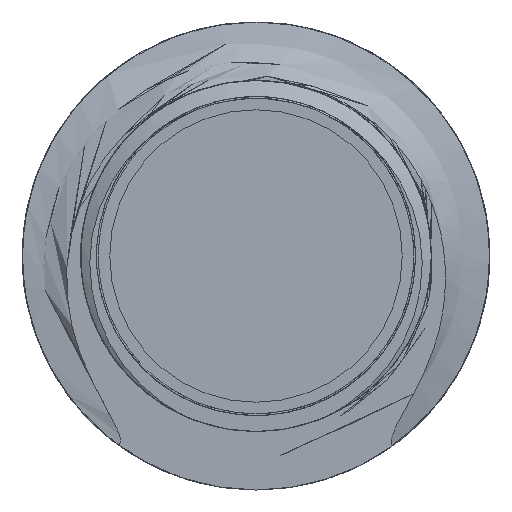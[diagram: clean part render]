
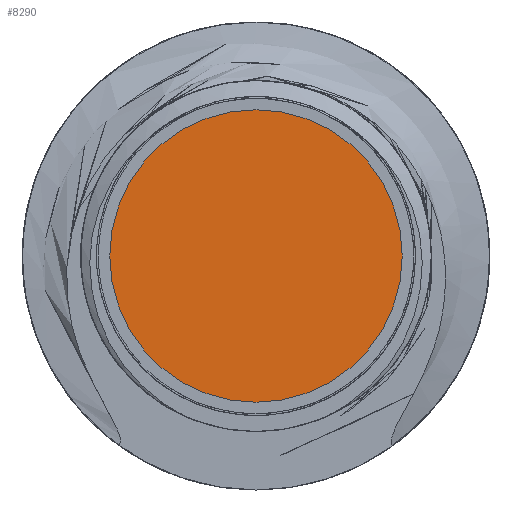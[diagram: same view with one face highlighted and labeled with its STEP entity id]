
A CAD part, left-side view. The second image highlights one B-rep face of the part: STEP entity #8290.
In plain terms, the highlighted planar face has unit normal (-1, 0, 0).
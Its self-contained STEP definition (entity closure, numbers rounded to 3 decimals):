
#2937 = CARTESIAN_POINT ( 'NONE',  ( 0., 0., 0. ) ) ;
#3794 = AXIS2_PLACEMENT_3D ( 'NONE', #2937, #4958, #13323 ) ;
#4958 = DIRECTION ( 'NONE',  ( -1., 0., 0. ) ) ;
#5366 = VERTEX_POINT ( 'NONE', #7145 ) ;
#5491 = DIRECTION ( 'NONE',  ( 1., 0., 0. ) ) ;
#7145 = CARTESIAN_POINT ( 'NONE',  ( 0., 0., 5. ) ) ;
#7699 = CARTESIAN_POINT ( 'NONE',  ( 0., 0., -5. ) ) ;
#7710 = CIRCLE ( 'NONE', #15084, 5. ) ;
#8025 = CIRCLE ( 'NONE', #3794, 5. ) ;
#8290 = ADVANCED_FACE ( 'NONE', ( #12453 ), #24320, .F. ) ;
#8679 = EDGE_LOOP ( 'NONE', ( #15684, #21455 ) ) ;
#9821 = CARTESIAN_POINT ( 'NONE',  ( 0., 0., 0. ) ) ;
#11468 = DIRECTION ( 'NONE',  ( 0., 0., -1. ) ) ;
#12453 = FACE_OUTER_BOUND ( 'NONE', #8679, .T. ) ;
#13323 = DIRECTION ( 'NONE',  ( 0., 0., 1. ) ) ;
#15084 = AXIS2_PLACEMENT_3D ( 'NONE', #9821, #16267, #24700 ) ;
#15684 = ORIENTED_EDGE ( 'NONE', *, *, #24434, .T. ) ;
#16267 = DIRECTION ( 'NONE',  ( -1., 0., 0. ) ) ;
#18110 = CARTESIAN_POINT ( 'NONE',  ( 0., 0., 0. ) ) ;
#19099 = VERTEX_POINT ( 'NONE', #7699 ) ;
#21455 = ORIENTED_EDGE ( 'NONE', *, *, #25257, .T. ) ;
#22657 = AXIS2_PLACEMENT_3D ( 'NONE', #18110, #5491, #11468 ) ;
#24320 = PLANE ( 'NONE',  #22657 ) ;
#24434 = EDGE_CURVE ( 'NONE', #5366, #19099, #7710, .T. ) ;
#24700 = DIRECTION ( 'NONE',  ( 0., 0., 1. ) ) ;
#25257 = EDGE_CURVE ( 'NONE', #19099, #5366, #8025, .T. ) ;
